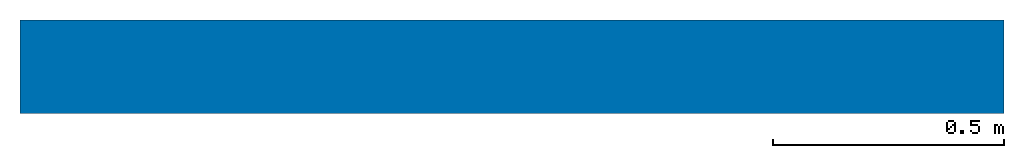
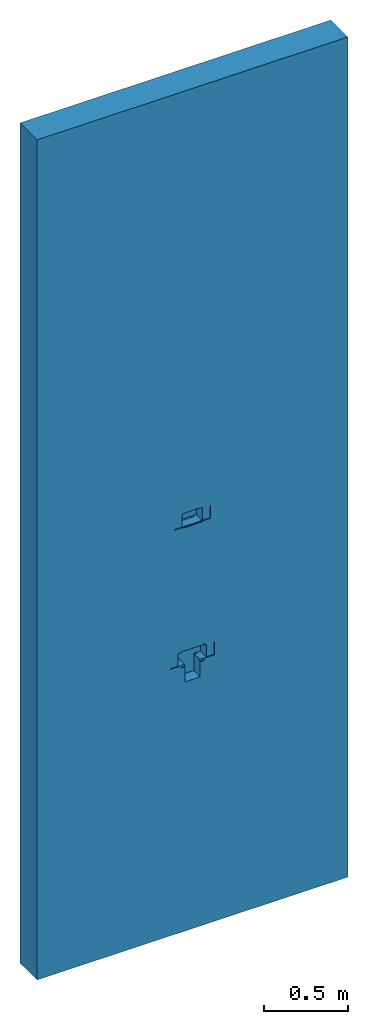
# One storey: 1 wall, 2 openings.
"""IFC2X3 building model written with IfcOpenShell, lengths in feet."""

from ifc_helpers import new_model, entity, si_unit, converted_unit, derived_unit, direction, frame, frame_2d, origin, place, context, subcontext, project, spatial, rectangle, extrude, faceted_brep, material, layer, layer_set, layer_usage, type_object, element, save


model = new_model("IFC2X3")

# Units and contexts
model_context = context("Model", 3, precision=0.0001, world=origin(), true_north=direction((6.12303176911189e-17, 1.0)))
body_context = subcontext(model_context, "Body", "Model", "MODEL_VIEW")
ifc_project = project(units=[converted_unit("LENGTHUNIT", "FOOT", entity("IfcRatioMeasure", 0.3048), si_unit("LENGTHUNIT", "METRE"), dimensions=[1, 0, 0, 0, 0, 0, 0]), converted_unit("AREAUNIT", "SQUARE FOOT", entity("IfcRatioMeasure", 0.09290304), si_unit("AREAUNIT", "SQUARE_METRE"), dimensions=[2, 0, 0, 0, 0, 0, 0]), converted_unit("VOLUMEUNIT", "CUBIC FOOT", entity("IfcRatioMeasure", 0.028316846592), si_unit("VOLUMEUNIT", "CUBIC_METRE"), dimensions=[3, 0, 0, 0, 0, 0, 0]), converted_unit("PLANEANGLEUNIT", "DEGREE", entity("IfcRatioMeasure", 0.0174532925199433), si_unit("PLANEANGLEUNIT", "RADIAN"), dimensions=[0, 0, 0, 0, 0, 0, 0]), si_unit("MASSUNIT", "GRAM", prefix="KILO"), derived_unit("MASSDENSITYUNIT", [(si_unit("MASSUNIT", "GRAM", prefix="KILO"), 1), (si_unit("LENGTHUNIT", "METRE"), -3)]), si_unit("TIMEUNIT", "SECOND"), si_unit("FREQUENCYUNIT", "HERTZ"), si_unit("THERMODYNAMICTEMPERATUREUNIT", "DEGREE_CELSIUS"), derived_unit("THERMALTRANSMITTANCEUNIT", [(si_unit("MASSUNIT", "GRAM", prefix="KILO"), 1), (si_unit("THERMODYNAMICTEMPERATUREUNIT", "KELVIN"), -1), (si_unit("TIMEUNIT", "SECOND"), -3)]), derived_unit("VOLUMETRICFLOWRATEUNIT", [(si_unit("LENGTHUNIT", "METRE"), 3), (si_unit("TIMEUNIT", "SECOND"), -1)]), si_unit("ELECTRICCURRENTUNIT", "AMPERE"), si_unit("ELECTRICVOLTAGEUNIT", "VOLT"), si_unit("POWERUNIT", "WATT"), si_unit("FORCEUNIT", "NEWTON"), si_unit("ILLUMINANCEUNIT", "LUX"), si_unit("LUMINOUSFLUXUNIT", "LUMEN"), si_unit("LUMINOUSINTENSITYUNIT", "CANDELA"), derived_unit("USERDEFINED", [(si_unit("MASSUNIT", "GRAM", prefix="KILO"), -1), (si_unit("LENGTHUNIT", "METRE"), -2), (si_unit("TIMEUNIT", "SECOND"), 3), (si_unit("LUMINOUSFLUXUNIT", "LUMEN"), 1)]), derived_unit("LINEARVELOCITYUNIT", [(si_unit("LENGTHUNIT", "METRE"), 1), (si_unit("TIMEUNIT", "SECOND"), -1)]), si_unit("PRESSUREUNIT", "PASCAL"), derived_unit("USERDEFINED", [(si_unit("LENGTHUNIT", "METRE"), -2), (si_unit("MASSUNIT", "GRAM", prefix="KILO"), 1), (si_unit("TIMEUNIT", "SECOND"), -2)])], contexts=[model_context])

# Site, building, storey
site_placement = place(None, origin())
site = spatial("IfcSite", under=ifc_project, at=site_placement, Name="Default", CompositionType="ELEMENT")
building_placement = place(site_placement, origin())
building = spatial("IfcBuilding", under=site, at=building_placement, CompositionType="ELEMENT")
storey_placement = place(building_placement, origin())
storey = spatial("IfcBuildingStorey", under=building, at=storey_placement, Name="Level 1", CompositionType="ELEMENT", Elevation=0.0)

# Wall, openings
ifc_material = material(Name="Default Wall")
ifc_layer = layer(ifc_material, 0.666666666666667)
ifc_layer_set = layer_set([ifc_layer], Name="Basic Wall:Generic - 8\"")
ifc_layer_usage = layer_usage(ifc_layer_set, "AXIS2", "NEGATIVE", 0.333333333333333)
wall_type = type_object("IfcWallType", Name="Basic Wall:Generic - 8\"", PredefinedType="STANDARD", material=ifc_layer_set)
wall_placement = place(storey_placement, frame((-9.85006469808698, 7.19587066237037, 0.0)))
wall = element("IfcWallStandardCase", 1, at=wall_placement, inside=storey, type_object=wall_type, material=ifc_layer_usage, Name="Basic Wall:Generic - 8\"", ObjectType="Basic Wall:Generic - 8\"", context=body_context, shape_type="SweptSolid", body=[
    extrude(rectangle(XDim=7.0, YDim=0.666666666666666, at=frame_2d((3.5, 5.55111512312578e-17), x_axis=(-1.0, 0.0))), origin(), (0.0, 0.0, 1.0), 20.0),
])
opening_1_placement = place(wall_placement, frame((3.00623359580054, -0.495756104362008, 5.9324146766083)))
element("IfcOpeningElement", 2, at=opening_1_placement, cuts=wall, Name="Basic Wall:Generic - 8\"", ObjectType="Opening", context=body_context, shape_type="Brep", body=[
    faceted_brep([(0.0, 0.0, 0.411745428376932), (0.231300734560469, 0.0, 0.411745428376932), (0.231300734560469, 0.0, 0.357611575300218), (0.321522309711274, 0.0, 0.357611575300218), (0.321522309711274, 0.0, 0.0), (0.666010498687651, 0.0, 0.0), (0.666010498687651, 0.0, 0.357611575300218), (0.756235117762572, 0.0, 0.357611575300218), (0.756235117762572, 0.0, 0.411745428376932), (0.98753280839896, 0.0, 0.411745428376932), (0.98753280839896, 0.0, 0.723425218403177), (0.756235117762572, 0.0, 0.723425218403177), (0.756235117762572, 0.0, 0.777559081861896), (0.231300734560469, 0.0, 0.777559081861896), (0.231300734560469, 0.0, 0.723425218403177), (0.0, 0.0, 0.723425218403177), (0.756235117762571, 0.180446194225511, 0.411745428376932), (0.743110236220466, 0.180446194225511, 0.411745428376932), (0.743110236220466, 0.37729658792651, 0.411745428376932), (0.66601049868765, 0.37729658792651, 0.411745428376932), (0.66601049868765, 0.410104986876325, 0.411745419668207), (0.815288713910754, 0.410104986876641, 0.411745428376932), (0.815288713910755, 0.180446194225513, 0.411745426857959), (0.987532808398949, 0.180446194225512, 0.411745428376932), (0.0, 0.18044619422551, 0.723425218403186), (0.0, 0.18044619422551, 0.411745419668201), (0.23130073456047, 0.18044619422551, 0.723425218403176), (0.244422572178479, 0.180446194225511, 0.723425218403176), (0.244422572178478, 0.37729658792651, 0.723425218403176), (0.421587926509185, 0.37729658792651, 0.723425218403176), (0.743110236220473, 0.37729658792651, 0.723425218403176), (0.743110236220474, 0.180446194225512, 0.723425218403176), (0.756235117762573, 0.180446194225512, 0.723425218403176), (0.987532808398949, 0.180446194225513, 0.723425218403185), (0.815288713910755, 0.180446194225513, 0.723425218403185), (0.815288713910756, 0.410104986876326, 0.723425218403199), (0.421587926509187, 0.410104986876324, 0.723425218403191), (0.17224409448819, 0.410104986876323, 0.723425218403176), (0.17224409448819, 0.18044619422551, 0.723425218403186), (0.815288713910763, 0.410104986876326, 0.411745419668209), (0.66601049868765, 0.410104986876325, 0.411745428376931), (0.66601049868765, 0.410104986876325, 0.0), (0.321522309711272, 0.410104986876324, 0.0), (0.321522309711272, 0.410104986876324, 0.411745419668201), (0.172244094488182, 0.410104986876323, 0.411745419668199), (0.172244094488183, 0.18044619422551, 0.411745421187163), (0.815288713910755, 0.180446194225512, 0.411745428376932), (0.743110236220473, 0.37729658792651, 0.726706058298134), (0.244422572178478, 0.377296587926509, 0.726706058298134), (0.743110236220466, 0.37729658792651, 0.408558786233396), (0.743110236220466, 0.180446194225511, 0.408558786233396), (0.666010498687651, 0.180446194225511, 0.408558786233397), (0.66601049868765, 0.37729658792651, 0.408558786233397), (0.244422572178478, 0.377296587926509, 0.408558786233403), (0.244422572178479, 0.18044619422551, 0.408558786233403), (0.244422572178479, 0.18044619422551, 0.411745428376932), (0.244422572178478, 0.377296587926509, 0.411745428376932), (0.244422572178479, 0.18044619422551, 0.726706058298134), (0.743110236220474, 0.180446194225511, 0.726706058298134), (0.321522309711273, 0.180446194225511, 0.357611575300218), (0.321522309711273, 0.18044619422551, 0.408558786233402), (0.321522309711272, 0.377296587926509, 0.408558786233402), (0.321522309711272, 0.377296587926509, 0.411745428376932), (0.321522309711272, 0.410104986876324, 0.411745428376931), (0.666010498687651, 0.180446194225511, 0.357611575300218), (0.756235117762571, 0.180446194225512, 0.777559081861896), (0.23130073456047, 0.18044619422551, 0.777559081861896), (0.23130073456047, 0.18044619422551, 0.357611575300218), (0.756235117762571, 0.180446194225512, 0.357611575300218), (0.23130073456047, 0.18044619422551, 0.411745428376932)], [[[0, 1, 2, 3, 4, 5, 6, 7, 8, 9, 10, 11, 12, 13, 14, 15]], [[8, 16, 17, 18, 19, 20, 21, 22, 23, 9]], [[15, 24, 25, 0]], [[15, 14, 26, 27, 28, 29, 30, 31, 32, 11, 10, 33, 34, 35, 36, 37, 38, 24]], [[9, 23, 33, 10]], [[23, 22, 34, 33]], [[37, 36, 35, 39, 40, 41, 42, 43, 44]], [[44, 45, 38, 37]], [[35, 34, 46, 39]], [[47, 30, 29, 28, 48]], [[49, 50, 51, 52]], [[53, 54, 55, 56]], [[48, 57, 58, 47]], [[47, 58, 31, 30]], [[41, 5, 4, 42]], [[42, 4, 3, 59, 60, 61, 62, 63]], [[40, 19, 52, 51, 64, 6, 5, 41]], [[65, 32, 31, 58, 57, 27, 26, 66]], [[67, 59, 3, 2]], [[66, 26, 14, 13]], [[66, 13, 12, 65]], [[68, 16, 8, 7]], [[12, 11, 32, 65]], [[2, 1, 69, 67]], [[7, 6, 64, 68]], [[68, 64, 51, 50, 17, 16]], [[69, 55, 54, 60, 59, 67]], [[18, 17, 50, 49]], [[28, 27, 57, 48]], [[61, 60, 54, 53]], [[49, 52, 19, 18]], [[56, 62, 61, 53]], [[24, 38, 45, 25]], [[25, 45, 44, 63, 62, 56, 55, 69, 1, 0]]]),
])
opening_2_placement = place(wall_placement, frame((3.09809711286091, -0.495756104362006, 9.60436539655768)))
element("IfcOpeningElement", 3, at=opening_2_placement, cuts=wall, Name="Basic Wall:Generic - 8\"", ObjectType="Opening", context=body_context, shape_type="Brep", body=[
    faceted_brep([(0.0, 0.0, 0.0206346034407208), (0.191929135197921, 0.0, 0.0206346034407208), (0.191929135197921, 0.0, 0.0), (0.61187664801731, 0.0, 0.0), (0.61187664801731, 0.0, 0.0206346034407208), (0.803805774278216, 0.0, 0.0206346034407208), (0.803805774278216, 0.0, 0.332314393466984), (0.61187664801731, 0.0, 0.332314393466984), (0.61187664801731, 0.0, 0.354331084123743), (0.191929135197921, 0.0, 0.354331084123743), (0.191929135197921, 0.0, 0.332314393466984), (0.0, 0.0, 0.332314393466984), (0.0, 0.180446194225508, 0.020634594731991), (0.170603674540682, 0.180446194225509, 0.0206345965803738), (0.170603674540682, 0.410104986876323, 0.020634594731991), (0.403543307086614, 0.410104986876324, 0.020634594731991), (0.633202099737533, 0.41010498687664, 0.0206346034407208), (0.633202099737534, 0.18044619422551, 0.020634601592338), (0.803805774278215, 0.180446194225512, 0.0206346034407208), (0.611876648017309, 0.180457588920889, 0.0206346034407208), (0.561023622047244, 0.180457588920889, 0.0206346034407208), (0.561023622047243, 0.37729658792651, 0.0206346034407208), (0.242782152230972, 0.377296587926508, 0.0206346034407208), (0.242782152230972, 0.180457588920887, 0.0206346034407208), (0.19192913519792, 0.180457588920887, 0.0206346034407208), (0.0, 0.180446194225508, 0.332314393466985), (0.19192913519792, 0.180457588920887, 0.332314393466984), (0.242782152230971, 0.180457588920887, 0.332314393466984), (0.24278215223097, 0.377296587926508, 0.332314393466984), (0.561023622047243, 0.37729658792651, 0.332314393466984), (0.561023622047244, 0.180457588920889, 0.332314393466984), (0.611876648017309, 0.180457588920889, 0.332314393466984), (0.803805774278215, 0.180446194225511, 0.332314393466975), (0.633202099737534, 0.180446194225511, 0.332314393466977), (0.633202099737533, 0.410104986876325, 0.332314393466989), (0.403543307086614, 0.410104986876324, 0.332314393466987), (0.170603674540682, 0.410104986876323, 0.332314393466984), (0.170603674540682, 0.180446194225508, 0.332314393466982), (0.633202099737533, 0.410104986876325, 0.020634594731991), (0.633202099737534, 0.180446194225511, 0.0206346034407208), (0.561023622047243, 0.37729658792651, 0.335595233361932), (0.242782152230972, 0.377296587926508, 0.335595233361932), (0.561023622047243, 0.377296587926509, 0.0174479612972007), (0.561023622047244, 0.180457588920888, 0.0174479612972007), (0.242782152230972, 0.180457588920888, 0.0174479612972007), (0.242782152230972, 0.377296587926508, 0.0174479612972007), (0.242782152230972, 0.180457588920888, 0.335595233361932), (0.561023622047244, 0.180457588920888, 0.335595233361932), (0.611876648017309, 0.180457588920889, 0.354331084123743), (0.19192913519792, 0.180457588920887, 0.354331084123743), (0.611876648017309, 0.180457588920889, 0.0), (0.19192913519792, 0.180457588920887, 0.0)], [[[0, 1, 2, 3, 4, 5, 6, 7, 8, 9, 10, 11]], [[12, 13, 14, 15, 16, 17, 18, 5, 4, 19, 20, 21, 22, 23, 24, 1, 0]], [[11, 25, 12, 0]], [[11, 10, 26, 27, 28, 29, 30, 31, 7, 6, 32, 33, 34, 35, 36, 37, 25]], [[5, 18, 32, 6]], [[18, 17, 33, 32]], [[36, 35, 34, 38, 15, 14]], [[14, 13, 37, 36]], [[34, 33, 39, 38]], [[40, 29, 28, 41]], [[42, 43, 44, 45]], [[45, 44, 23, 22]], [[41, 46, 47, 40]], [[40, 47, 30, 29]], [[48, 31, 30, 47, 46, 27, 26, 49]], [[50, 3, 2, 51]], [[49, 26, 10, 9]], [[49, 9, 8, 48]], [[50, 19, 4, 3]], [[8, 7, 31, 48]], [[2, 1, 24, 51]], [[51, 24, 23, 44, 43, 20, 19, 50]], [[21, 20, 43, 42]], [[28, 27, 46, 41]], [[45, 22, 21, 42]], [[25, 37, 13, 12]]]),
])

save(model, "model.ifc")
